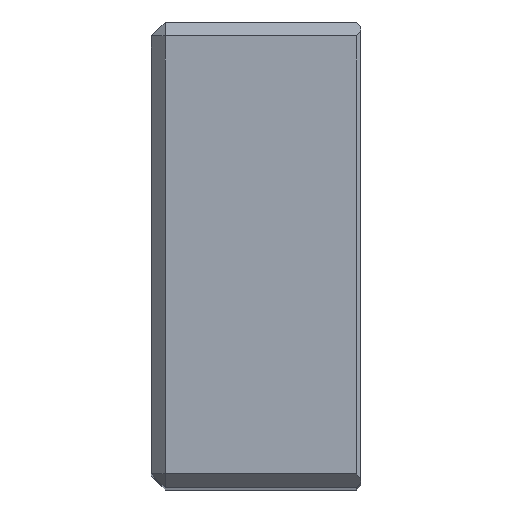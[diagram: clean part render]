
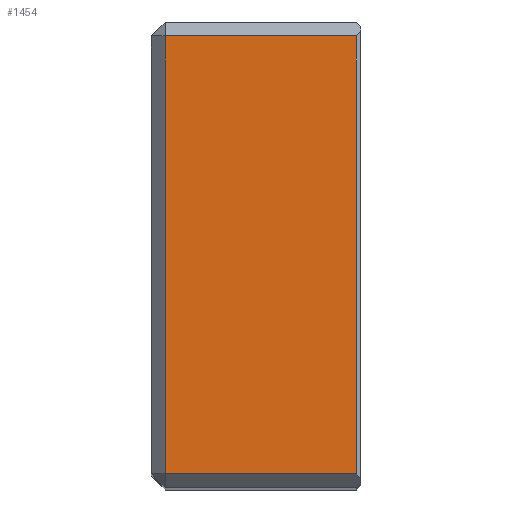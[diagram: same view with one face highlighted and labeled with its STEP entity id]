
A CAD part, top view. The second image highlights one B-rep face of the part: STEP entity #1454.
In plain terms, the highlighted planar face has unit normal (0, 0, 1).
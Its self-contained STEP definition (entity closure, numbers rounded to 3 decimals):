
#145=VERTEX_POINT(' ',#146);
#146=CARTESIAN_POINT('',(3.,47.,0.));
#149=VERTEX_POINT(' ',#150);
#150=CARTESIAN_POINT('',(3.,-47.,0.));
#175=VERTEX_POINT(' ',#176);
#176=CARTESIAN_POINT('',(44.,47.,0.));
#179=VERTEX_POINT(' ',#180);
#180=CARTESIAN_POINT('',(44.,-47.,0.));
#482=LINE('',#483,#484);
#483=CARTESIAN_POINT('',(3.,-66.971,0.));
#484=VECTOR('',#485,1.);
#485=DIRECTION('',(0.,1.,0.));
#486=EDGE_CURVE(' ',#149,#145,#482,.T.);
#602=LINE('',#603,#604);
#603=CARTESIAN_POINT('',(-13.971,47.,0.));
#604=VECTOR('',#605,1.);
#605=DIRECTION('',(1.,0.,0.));
#606=EDGE_CURVE(' ',#145,#175,#602,.T.);
#607=LINE('',#608,#609);
#608=CARTESIAN_POINT('',(44.,52.657,0.));
#609=VECTOR('',#610,1.);
#610=DIRECTION('',(0.,-1.,0.));
#611=EDGE_CURVE(' ',#175,#179,#607,.T.);
#612=LINE('',#613,#614);
#613=CARTESIAN_POINT('',(61.971,-47.,0.));
#614=VECTOR('',#615,1.);
#615=DIRECTION('',(-1.,0.,0.));
#616=EDGE_CURVE(' ',#179,#149,#612,.T.);
#1443=ORIENTED_EDGE('',*,*,#611,.F.);
#1444=ORIENTED_EDGE('',*,*,#606,.F.);
#1445=ORIENTED_EDGE('',*,*,#486,.F.);
#1446=ORIENTED_EDGE('',*,*,#616,.F.);
#1447=EDGE_LOOP('',(#1443,#1444,#1445,#1446));
#1448=FACE_OUTER_BOUND('',#1447,.T.);
#1449=PLANE('',#1450);
#1450=AXIS2_PLACEMENT_3D('',#1451,#1452,#1453);
#1451=CARTESIAN_POINT('',(0.,-50.,0.));
#1452=DIRECTION('',(0.,0.,1.));
#1453=DIRECTION('',(0.,1.,0.));
#1454=ADVANCED_FACE('',(#1448),#1449,.T.);
